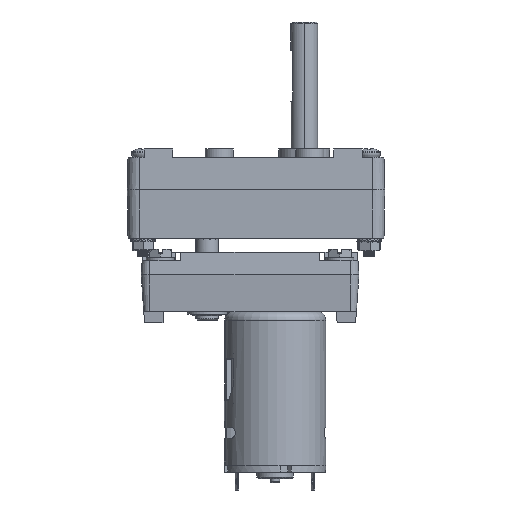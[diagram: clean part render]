
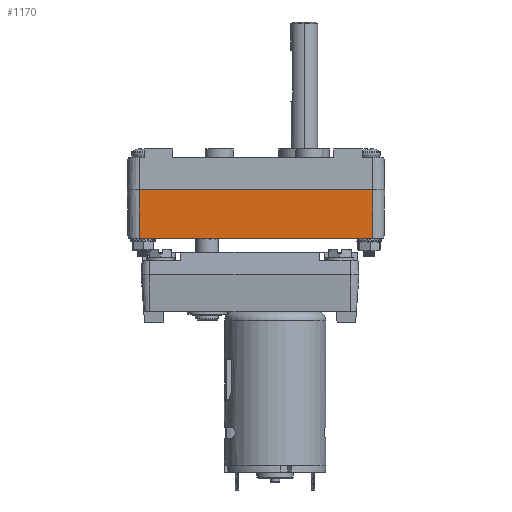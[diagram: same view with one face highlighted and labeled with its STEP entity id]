
A CAD part, left-side view. The second image highlights one B-rep face of the part: STEP entity #1170.
In plain terms, the highlighted planar face has unit normal (-1, 0, -0.016).
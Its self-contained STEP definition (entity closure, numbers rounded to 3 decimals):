
#1170 = ADVANCED_FACE ( 'NONE', ( #45799 ), #69224, .T. ) ;
#3668 = DIRECTION ( 'NONE',  ( 0.016, 0., -1. ) ) ;
#10726 = LINE ( 'NONE', #54064, #38379 ) ;
#13024 = DIRECTION ( 'NONE',  ( 0.016, 0., -1. ) ) ;
#13276 = CARTESIAN_POINT ( 'NONE',  ( -37.75, -40.9, 0. ) ) ;
#13371 = EDGE_LOOP ( 'NONE', ( #24045, #50295, #53964, #48692 ) ) ;
#24045 = ORIENTED_EDGE ( 'NONE', *, *, #71581, .T. ) ;
#25165 = DIRECTION ( 'NONE',  ( 0.016, 0., -1. ) ) ;
#25310 = CARTESIAN_POINT ( 'NONE',  ( -37.75, -40.9, 0. ) ) ;
#29763 = CARTESIAN_POINT ( 'NONE',  ( -37.75, 41.6, 0. ) ) ;
#33426 = EDGE_CURVE ( 'NONE', #55259, #54625, #51153, .T. ) ;
#36073 = VECTOR ( 'NONE', #13024, 1000. ) ;
#36157 = DIRECTION ( 'NONE',  ( 0., -1., 0. ) ) ;
#36513 = VECTOR ( 'NONE', #3668, 1000. ) ;
#38379 = VECTOR ( 'NONE', #42741, 1000. ) ;
#40238 = VECTOR ( 'NONE', #36157, 1000. ) ;
#40316 = LINE ( 'NONE', #13276, #36073 ) ;
#41317 = DIRECTION ( 'NONE',  ( -1., 0., -0.016 ) ) ;
#42612 = CARTESIAN_POINT ( 'NONE',  ( -37.75, 41.6, 0. ) ) ;
#42741 = DIRECTION ( 'NONE',  ( 0., -1., 0. ) ) ;
#43427 = AXIS2_PLACEMENT_3D ( 'NONE', #47092, #41317, #25165 ) ;
#43532 = VERTEX_POINT ( 'NONE', #59091 ) ;
#45799 = FACE_OUTER_BOUND ( 'NONE', #13371, .T. ) ;
#46811 = EDGE_CURVE ( 'NONE', #55259, #43532, #10726, .T. ) ;
#47092 = CARTESIAN_POINT ( 'NONE',  ( -37.75, 41.6, 0. ) ) ;
#48692 = ORIENTED_EDGE ( 'NONE', *, *, #33426, .T. ) ;
#50295 = ORIENTED_EDGE ( 'NONE', *, *, #54026, .F. ) ;
#51153 = LINE ( 'NONE', #64191, #36513 ) ;
#53964 = ORIENTED_EDGE ( 'NONE', *, *, #46811, .F. ) ;
#54026 = EDGE_CURVE ( 'NONE', #43532, #56909, #40316, .T. ) ;
#54064 = CARTESIAN_POINT ( 'NONE',  ( -38.022, 41.6, 17. ) ) ;
#54625 = VERTEX_POINT ( 'NONE', #29763 ) ;
#55259 = VERTEX_POINT ( 'NONE', #68216 ) ;
#56909 = VERTEX_POINT ( 'NONE', #25310 ) ;
#59091 = CARTESIAN_POINT ( 'NONE',  ( -38.022, -40.9, 17. ) ) ;
#64191 = CARTESIAN_POINT ( 'NONE',  ( -37.75, 41.6, 0. ) ) ;
#68216 = CARTESIAN_POINT ( 'NONE',  ( -38.022, 41.6, 17. ) ) ;
#69224 = PLANE ( 'NONE',  #43427 ) ;
#69542 = LINE ( 'NONE', #42612, #40238 ) ;
#71581 = EDGE_CURVE ( 'NONE', #54625, #56909, #69542, .T. ) ;
